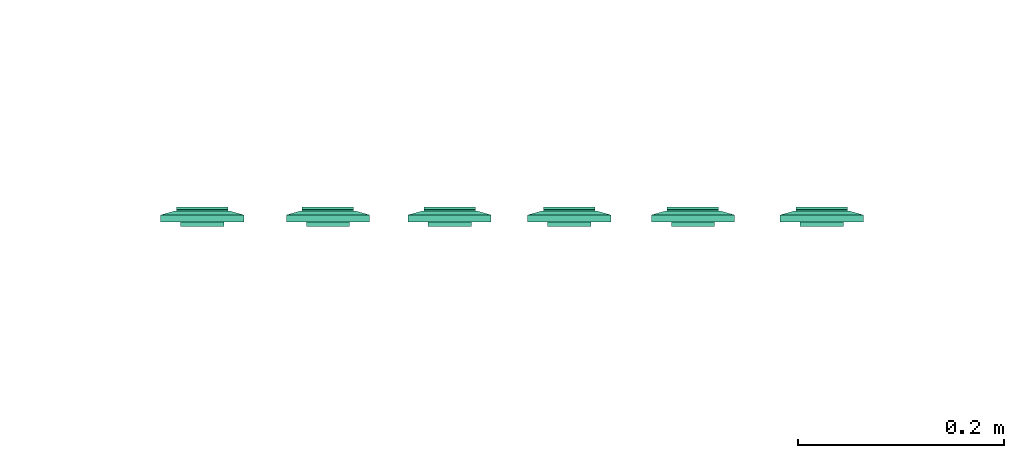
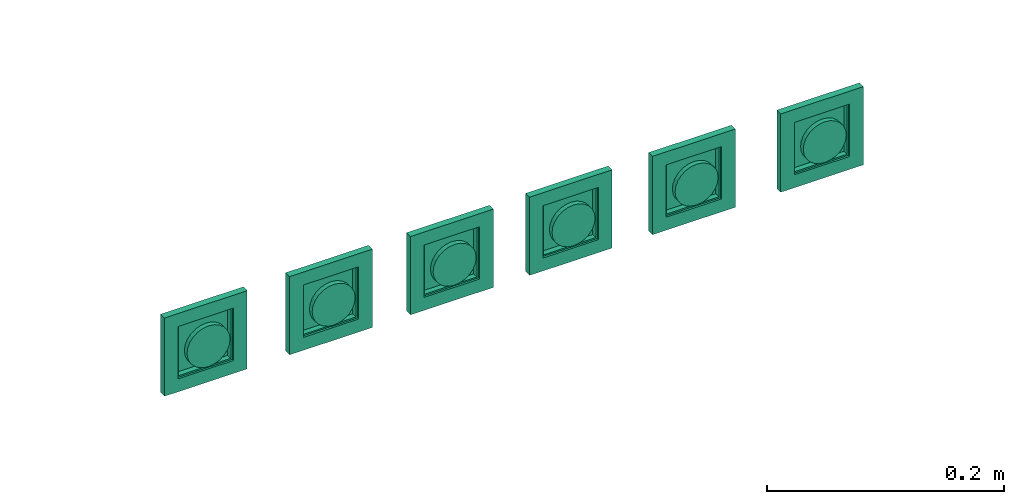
# One storey, part 21 of 146: 6 flow terminals.
"""IFC2X3 building model written with IfcOpenShell, lengths in metres."""

import ifcopenshell
import ifcopenshell.guid

model = None  # the IFC model being written
_history = None  # IfcOwnerHistory: only IFC2X3 demands one
_inside = {}  # id of a spatial element -> (the spatial element, [elements in it])
_under = {}  # id of a project, library or spatial element -> (it, [spatial elements below it])
_declared = {}  # id of a project -> (the project, [libraries it declares])
_typed = {}  # id of a type object -> (the type object, [elements of that type])
_made_of = {}  # id of a material, layer set ... -> (it, [elements and type objects made of it])


def new_model(schema):
    """Start an empty IFC model of exactly this schema.

    Asked for "IFC4X3", IfcOpenShell would pick the latest addendum, in which some entities
    have other attributes; the version numbers below select the first issue.
    IFC2X3 requires an IfcOwnerHistory on every rooted entity: one is made here for all.
    """
    global model, _history
    if schema == "IFC4X3":
        model = ifcopenshell.file(schema_version=(4, 3, 0, 0))
    else:
        model = ifcopenshell.file(schema=schema)
    _inside.clear()
    _under.clear()
    _declared.clear()
    _typed.clear()
    _made_of.clear()
    _history = None
    if model.schema == "IFC2X3":
        org = make("IfcOrganization", Name="unknown")
        user = make(
            "IfcPersonAndOrganization",
            ThePerson=make("IfcPerson", FamilyName="unknown"),
            TheOrganization=org,
        )
        app = make(
            "IfcApplication",
            ApplicationDeveloper=org,
            Version="unknown",
            ApplicationFullName="unknown",
            ApplicationIdentifier="unknown",
        )
        _history = make(
            "IfcOwnerHistory",
            OwningUser=user,
            OwningApplication=app,
            ChangeAction="ADDED",
            CreationDate=0,
        )
    return model


def make(cls, **values):
    """One entity of the class cls with the attributes given. An attribute that is None is left unset."""
    return model.create_entity(
        cls, **{name: value for name, value in values.items() if value is not None}
    )


def entity(cls, *values):
    """Any entity or typed value of the class cls, its attributes in the order of the schema. None: left unset."""
    e = model.create_entity(cls)
    for i, value in enumerate(values):
        if value is not None:
            e[i] = value
    return e


def rooted(cls, **values):
    """An entity with a GlobalId (a new one), such as an element, a storey or a relation."""
    return make(cls, GlobalId=ifcopenshell.guid.new(), OwnerHistory=_history, **values)


def si_unit(unit_type, name, prefix=None):
    """IfcSIUnit, for example si_unit("LENGTHUNIT", "METRE", prefix="MILLI")."""
    return make("IfcSIUnit", UnitType=unit_type, Prefix=prefix, Name=name)


def converted_unit(unit_type, name, factor, base, dimensions=None, offset=None):
    """IfcConversionBasedUnit, such as the inch: factor (a typed value) times the base unit."""
    return make(
        "IfcConversionBasedUnit"
        if offset is None
        else "IfcConversionBasedUnitWithOffset",
        ConversionOffset=offset,
        Dimensions=None
        if dimensions is None
        else entity("IfcDimensionalExponents", *dimensions),
        UnitType=unit_type,
        Name=name,
        ConversionFactor=make(
            "IfcMeasureWithUnit", ValueComponent=factor, UnitComponent=base
        ),
    )


def derived_unit(unit_type, elements):
    """IfcDerivedUnit: a product of units, each with its exponent."""
    return make(
        "IfcDerivedUnit",
        Elements=[
            make("IfcDerivedUnitElement", Unit=unit, Exponent=power)
            for unit, power in elements
        ],
        UnitType=unit_type,
    )


def assignment(units):
    """IfcUnitAssignment: the units of a project."""
    return None if units is None else make("IfcUnitAssignment", Units=units)


def point(xyz):
    """IfcCartesianPoint."""
    return None if xyz is None else make("IfcCartesianPoint", Coordinates=xyz)


def direction(xyz):
    """IfcDirection."""
    return None if xyz is None else make("IfcDirection", DirectionRatios=xyz)


def frame(location, z_axis=None, x_axis=None):
    """IfcAxis2Placement3D, a coordinate frame: its origin and axes. An axis left out is left unset."""
    return make(
        "IfcAxis2Placement3D",
        Location=point(location),
        Axis=direction(z_axis),
        RefDirection=direction(x_axis),
    )


def origin():
    """The frame at (0, 0, 0) with its axes left unset."""
    return frame((0.0, 0.0, 0.0))


def place(relative_to, where):
    """IfcLocalPlacement: puts the frame where relative to a parent placement (None: the world)."""
    return make(
        "IfcLocalPlacement", PlacementRelTo=relative_to, RelativePlacement=where
    )


def context(
    kind, dimensions, precision=None, world=None, true_north=None, identifier=None
):
    """IfcGeometricRepresentationContext, for example the 3D "Model" context."""
    return make(
        "IfcGeometricRepresentationContext",
        ContextIdentifier=identifier,
        ContextType=kind,
        CoordinateSpaceDimension=dimensions,
        Precision=precision,
        WorldCoordinateSystem=world,
        TrueNorth=true_north,
    )


def subcontext(parent, identifier, kind, view, scale=None):
    """IfcGeometricRepresentationSubContext, for example "Body" below "Model"."""
    return make(
        "IfcGeometricRepresentationSubContext",
        ContextIdentifier=identifier,
        ContextType=kind,
        ParentContext=parent,
        TargetScale=scale,
        TargetView=view,
    )


def project(units=None, contexts=None):
    """IfcProject with its units and contexts."""
    return rooted(
        "IfcProject",
        Name="project",
        RepresentationContexts=contexts,
        UnitsInContext=assignment(units),
    )


def spatial(cls, under=None, at=None, **own):
    """A site, building, storey or space (cls), placed at a placement, below another one or the project."""
    s = rooted(cls, ObjectPlacement=at, **own)
    if under is not None:
        _under.setdefault(under.id(), (under, []))[1].append(s)
    return s


def faces_of(points, faces, orient=None, outer=None):
    """IfcFace entities. A face is a list of loops; a loop is a list of indices into points, from 0.

    orient and outer hold one flag for each loop. By default every Orientation is true, the
    first loop of a face is its IfcFaceOuterBound and the others are IfcFaceBound.
    """
    made = []
    for i, loops in enumerate(faces):
        bounds = []
        for j, loop in enumerate(loops):
            is_outer = j == 0 if outer is None else outer[i][j]
            bounds.append(
                make(
                    "IfcFaceOuterBound" if is_outer else "IfcFaceBound",
                    Bound=make("IfcPolyLoop", Polygon=[points[k] for k in loop]),
                    Orientation=True if orient is None else orient[i][j],
                )
            )
        made.append(make("IfcFace", Bounds=bounds))
    return made


def faceted_brep(points, faces, orient=None, outer=None, voids=None):
    """IfcFacetedBrep: a solid bounded by flat faces; with voids (closed shells), ...WithVoids."""
    shared = [point(p) for p in points]
    hull = make("IfcClosedShell", CfsFaces=faces_of(shared, faces, orient, outer))
    if voids is None:
        return make("IfcFacetedBrep", Outer=hull)
    return make(
        "IfcFacetedBrepWithVoids",
        Outer=hull,
        Voids=[
            make(cls, CfsFaces=faces_of(shared, fs, o, b)) for cls, fs, o, b in voids
        ],
    )


def shape(context_of_items, identifier, shape_type, items):
    """IfcShapeRepresentation: the items that make up one representation, for example the "Body"."""
    return make(
        "IfcShapeRepresentation",
        ContextOfItems=context_of_items,
        RepresentationIdentifier=identifier,
        RepresentationType=shape_type,
        Items=items,
    )


def source(mapping_origin, context_of_items, identifier, shape_type, items):
    """IfcRepresentationMap: a shape defined once, which mapped items show again and again."""
    return make(
        "IfcRepresentationMap",
        MappingOrigin=mapping_origin,
        MappedRepresentation=shape(context_of_items, identifier, shape_type, items),
    )


def transform(
    local_origin,
    x_axis=None,
    y_axis=None,
    z_axis=None,
    scale=None,
    scale2=None,
    scale3=None,
    uniform=True,
):
    """IfcCartesianTransformationOperator3D, or its non-uniform kind. x_axis, y_axis, z_axis: its Axis1, 2, 3."""
    if uniform:
        return make(
            "IfcCartesianTransformationOperator3D",
            Axis1=direction(x_axis),
            Axis2=direction(y_axis),
            LocalOrigin=point(local_origin),
            Scale=scale,
            Axis3=direction(z_axis),
        )
    return make(
        "IfcCartesianTransformationOperator3DnonUniform",
        Axis1=direction(x_axis),
        Axis2=direction(y_axis),
        LocalOrigin=point(local_origin),
        Scale=scale,
        Axis3=direction(z_axis),
        Scale2=scale2,
        Scale3=scale3,
    )


def mapped(mapping_source, mapping_target):
    """IfcMappedItem: shows the shape of a source again, moved by a transform."""
    return make(
        "IfcMappedItem", MappingSource=mapping_source, MappingTarget=mapping_target
    )


def made_of(thing, what):
    """Note that an element or type object is made of a material, layer set ...; save() writes the relation."""
    if what is not None:
        _made_of.setdefault(what.id(), (what, []))[1].append(thing)
    return thing


def type_object(cls, material=None, **own):
    """A type object (cls), such as IfcWallType, which elements share."""
    return made_of(rooted(cls, **own), material)


def type_shapes(of_type, sources):
    """Give a type object the sources (RepresentationMaps) that its elements show as mapped items."""
    of_type.RepresentationMaps = sources


def element(
    cls,
    number,
    at=None,
    inside=None,
    cuts=None,
    type_object=None,
    material=None,
    context=None,
    identifier="Body",
    shape_type=None,
    held_by="IfcProductDefinitionShape",
    body=None,
    shapes=None,
    **own,
):
    """One element of the class cls, such as IfcWall. Its Tag is "e" and its number.

    at: its placement. inside: the storey or other place that contains it. cuts: it is an
    opening in that element (IfcRelVoidsElement). A single representation is given by context,
    identifier, shape_type and body (its items); several are given by shapes. held_by: the class
    of the entity that holds the representations. save() writes the other relations.
    """
    e = rooted(cls, Tag="e%d" % number, ObjectPlacement=at, **own)
    if body is not None:
        shapes = [shape(context, identifier, shape_type, body)]
    if shapes is not None:
        e.Representation = make(held_by, Representations=shapes)
    if inside is not None:
        _inside.setdefault(inside.id(), (inside, []))[1].append(e)
    if cuts is not None:
        rooted(
            "IfcRelVoidsElement", RelatingBuildingElement=cuts, RelatedOpeningElement=e
        )
    if type_object is not None:
        _typed.setdefault(type_object.id(), (type_object, []))[1].append(e)
    return made_of(e, material)


def aggregate(whole, parts):
    """IfcRelAggregates: a whole, such as a stair, and the parts it consists of."""
    return rooted("IfcRelAggregates", RelatingObject=whole, RelatedObjects=parts)


def save(model, path):
    """Write the relations noted so far, then the file.

    IfcRelAggregates (storeys below a building ...), IfcRelContainedInSpatialStructure (elements
    in a storey), IfcRelDefinesByType, IfcRelAssociatesMaterial and IfcRelDeclares: one each for
    every whole, place, type object, material and project.
    """
    for whole, parts in _under.values():
        aggregate(whole, parts)
    for where, things in _inside.values():
        rooted(
            "IfcRelContainedInSpatialStructure",
            RelatedElements=things,
            RelatingStructure=where,
        )
    for kind, things in _typed.values():
        rooted("IfcRelDefinesByType", RelatedObjects=things, RelatingType=kind)
    for what, things in _made_of.values():
        rooted("IfcRelAssociatesMaterial", RelatedObjects=things, RelatingMaterial=what)
    for by, libraries in _declared.values():
        rooted("IfcRelDeclares", RelatingContext=by, RelatedDefinitions=libraries)
    model.write(path)


model = new_model("IFC2X3")

# Units and contexts
model_context = context("Model", 3, precision=1e-05, world=origin(), true_north=direction((6.12303176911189e-17, 1.0)))
body_context = subcontext(model_context, "Body", "Model", "MODEL_VIEW")
ifc_project = project(units=[si_unit("LENGTHUNIT", "METRE"), si_unit("AREAUNIT", "SQUARE_METRE"), si_unit("VOLUMEUNIT", "CUBIC_METRE"), converted_unit("PLANEANGLEUNIT", "DEGREE", entity("IfcRatioMeasure", 0.0174532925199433), si_unit("PLANEANGLEUNIT", "RADIAN"), dimensions=[0, 0, 0, 0, 0, 0, 0]), si_unit("MASSUNIT", "GRAM", prefix="KILO"), derived_unit("MASSDENSITYUNIT", [(si_unit("MASSUNIT", "GRAM", prefix="KILO"), 1), (si_unit("LENGTHUNIT", "METRE"), -3)]), si_unit("TIMEUNIT", "SECOND"), si_unit("FREQUENCYUNIT", "HERTZ"), si_unit("THERMODYNAMICTEMPERATUREUNIT", "DEGREE_CELSIUS"), derived_unit("THERMALTRANSMITTANCEUNIT", [(si_unit("MASSUNIT", "GRAM", prefix="KILO"), 1), (si_unit("THERMODYNAMICTEMPERATUREUNIT", "KELVIN"), -1), (si_unit("TIMEUNIT", "SECOND"), -3)]), derived_unit("VOLUMETRICFLOWRATEUNIT", [(si_unit("LENGTHUNIT", "METRE"), 3), (si_unit("TIMEUNIT", "SECOND"), -1)]), si_unit("ELECTRICCURRENTUNIT", "AMPERE"), si_unit("ELECTRICVOLTAGEUNIT", "VOLT"), si_unit("POWERUNIT", "WATT"), si_unit("FORCEUNIT", "NEWTON"), si_unit("ILLUMINANCEUNIT", "LUX"), si_unit("LUMINOUSFLUXUNIT", "LUMEN"), si_unit("LUMINOUSINTENSITYUNIT", "CANDELA"), derived_unit("USERDEFINED", [(si_unit("MASSUNIT", "GRAM", prefix="KILO"), -1), (si_unit("LENGTHUNIT", "METRE"), -2), (si_unit("TIMEUNIT", "SECOND"), 3), (si_unit("LUMINOUSFLUXUNIT", "LUMEN"), 1)]), derived_unit("LINEARVELOCITYUNIT", [(si_unit("LENGTHUNIT", "METRE"), 1), (si_unit("TIMEUNIT", "SECOND"), -1)]), si_unit("PRESSUREUNIT", "PASCAL"), derived_unit("USERDEFINED", [(si_unit("LENGTHUNIT", "METRE"), -2), (si_unit("MASSUNIT", "GRAM", prefix="KILO"), 1), (si_unit("TIMEUNIT", "SECOND"), -2)])], contexts=[model_context])

# Site, building, storey
site_placement = place(None, origin())
site = spatial("IfcSite", under=ifc_project, at=site_placement, Name="Default", CompositionType="ELEMENT")
building_placement = place(site_placement, origin())
building = spatial("IfcBuilding", under=site, at=building_placement, CompositionType="ELEMENT")
storey_placement = place(building_placement, origin())
storey = spatial("IfcBuildingStorey", under=building, at=storey_placement, Name="S01", CompositionType="ELEMENT", Elevation=0.0)

# Flow terminals
light_fixture_type = type_object("IfcLightFixtureType", Name="BP IP21", PredefinedType="NOTDEFINED")
shared_shape = source(origin(), body_context, "Body", "Brep", [
    faceted_brep([(0.0, 0.0209999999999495, -0.00460000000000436), (0.00543519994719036, 0.02028444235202, -0.00460000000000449), (0.0105000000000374, 0.0181865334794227, -0.00460000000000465), (0.0148492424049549, 0.014849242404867, -0.00460000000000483), (0.0181865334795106, 0.0104999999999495, -0.00460000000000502), (0.0202844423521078, 0.00543519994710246, -0.00460000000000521), (0.0210000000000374, 0.0, -0.00460000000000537), (0.0202844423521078, -0.00543519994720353, -0.00460000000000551), (0.0181865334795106, -0.0105000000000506, -0.0046000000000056), (0.0148492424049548, -0.0148492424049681, -0.00460000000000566), (0.0105000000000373, -0.0181865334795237, -0.00460000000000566), (0.00543519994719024, -0.0202844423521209, -0.00460000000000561), (0.0, -0.0210000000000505, -0.00460000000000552), (-0.00543519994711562, -0.0202844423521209, -0.00460000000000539), (-0.0104999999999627, -0.0181865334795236, -0.00460000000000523), (-0.0148492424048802, -0.0148492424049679, -0.00460000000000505), (-0.0181865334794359, -0.0105000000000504, -0.00460000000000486), (-0.0202844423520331, -0.00543519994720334, -0.00460000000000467), (-0.0209999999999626, 0.0, -0.00460000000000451), (-0.020284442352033, 0.00543519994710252, -0.00460000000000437), (-0.0181865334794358, 0.0104999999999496, -0.00460000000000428), (-0.0148492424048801, 0.0148492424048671, -0.00460000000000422), (-0.0104999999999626, 0.0181865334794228, -0.00460000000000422), (-0.00543519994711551, 0.02028444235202, -0.00460000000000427), (-0.020284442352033, -0.00543519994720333, 0.0), (-0.0209999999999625, 0.0, 0.0), (-0.0181865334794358, -0.0105000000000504, 0.0), (-0.0104999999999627, -0.0181865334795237, 0.0), (-0.0148492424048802, -0.0148492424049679, 0.0), (-0.00543519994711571, -0.020284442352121, 0.0), (0.0, -0.0210000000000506, 0.0), (0.00543519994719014, -0.0202844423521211, 0.0), (0.0105000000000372, -0.018186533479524, 0.0), (0.0181865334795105, -0.0105000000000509, 0.0), (0.0148492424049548, -0.0148492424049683, 0.0), (0.0202844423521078, -0.00543519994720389, 0.0), (0.0210000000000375, 0.0, 0.0), (0.0202844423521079, 0.00543519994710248, 0.0), (0.0181865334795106, 0.0104999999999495, 0.0), (0.0105000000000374, 0.0181865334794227, 0.0), (0.0148492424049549, 0.014849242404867, 0.0), (0.00543519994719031, 0.0202844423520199, 0.0), (0.0, 0.0209999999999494, 0.0), (-0.00543519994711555, 0.0202844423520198, 0.0), (-0.0104999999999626, 0.0181865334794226, 0.0), (-0.0181865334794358, 0.0104999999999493, 0.0), (-0.0148492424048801, 0.0148492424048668, 0.0), (-0.020284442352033, 0.00543519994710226, 0.0)], [[[0, 1, 2, 3, 4, 5, 6, 7, 8, 9, 10, 11, 12, 13, 14, 15, 16, 17, 18, 19, 20, 21, 22, 23]], [[17, 24, 25, 18]], [[16, 26, 24, 17]], [[27, 28, 15, 14]], [[16, 15, 28, 26]], [[29, 27, 14, 13]], [[30, 29, 13, 12]], [[11, 31, 30, 12]], [[10, 32, 31, 11]], [[33, 34, 9, 8]], [[10, 9, 34, 32]], [[35, 33, 8, 7]], [[36, 35, 7, 6]], [[5, 37, 36, 6]], [[4, 38, 37, 5]], [[39, 40, 3, 2]], [[4, 3, 40, 38]], [[41, 39, 2, 1]], [[42, 41, 1, 0]], [[23, 43, 42, 0]], [[22, 44, 43, 23]], [[45, 46, 21, 20]], [[22, 21, 46, 44]], [[47, 45, 20, 19]], [[25, 47, 19, 18]], [[25, 24, 26, 28, 27, 29, 30, 31, 32, 34, 33, 35, 36, 37, 38, 40, 39, 41, 42, 43, 44, 46, 45, 47]]]),
    faceted_brep([(0.0270000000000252, 0.026999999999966, 0.0103999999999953), (-0.0269999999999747, 0.026999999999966, 0.0103999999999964), (-0.0269999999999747, -0.0270000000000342, 0.0103999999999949), (0.0270000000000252, -0.0270000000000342, 0.0103999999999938), (-0.0254999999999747, 0.0258096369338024, 0.0103999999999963), (0.0255000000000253, 0.0258096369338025, 0.0103999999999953), (0.0255000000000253, -0.0255000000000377, 0.0103999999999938), (-0.0254999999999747, -0.0255000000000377, 0.0103999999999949), (0.0270000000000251, 0.0269999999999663, 0.00199999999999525), (0.0270000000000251, -0.0270000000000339, 0.00199999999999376), (-0.0269999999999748, -0.0270000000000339, 0.00199999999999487), (-0.0269999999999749, 0.0269999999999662, 0.00199999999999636), (0.0255000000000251, 0.0258096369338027, 0.00199999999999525), (-0.0254999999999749, 0.0258096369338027, 0.0019999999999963), (-0.0254999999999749, -0.0255000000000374, 0.00199999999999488), (0.0255000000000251, -0.0255000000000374, 0.00199999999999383)], [[[0, 1, 2, 3], [4, 5, 6, 7]], [[8, 9, 10, 11], [12, 13, 14, 15]], [[1, 0, 8, 11]], [[2, 1, 11, 10]], [[3, 2, 10, 9]], [[0, 3, 9, 8]], [[12, 5, 4, 13]], [[13, 4, 7, 14]], [[14, 7, 6, 15]], [[5, 12, 15, 6]]]),
    faceted_brep([(0.0250000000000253, 0.0253096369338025, 0.00659999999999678), (0.0250000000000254, 0.0253096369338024, 0.0117095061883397), (0.0250000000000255, -0.0245000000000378, 0.0142232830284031), (0.0250000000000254, -0.0250000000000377, 0.0117095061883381), (0.0250000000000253, -0.0250000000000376, 0.00659999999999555), (-0.0249999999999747, 0.0253096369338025, 0.00659999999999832), (-0.0249999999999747, -0.0250000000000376, 0.00659999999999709), (-0.0249999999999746, -0.0250000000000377, 0.0117095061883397), (-0.0249999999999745, -0.0245000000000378, 0.0142232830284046), (-0.0249999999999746, 0.0253096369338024, 0.0117095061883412)], [[[0, 1, 2, 3, 4]], [[5, 6, 7, 8, 9]], [[1, 0, 5, 9]], [[2, 1, 9, 8]], [[3, 2, 8, 7]], [[4, 3, 7, 6]], [[0, 4, 6, 5]]]),
    faceted_brep([(0.027000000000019, 0.0269999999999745, 0.00659999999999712), (-0.0269999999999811, 0.0269999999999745, 0.00659999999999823), (-0.026999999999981, -0.0270000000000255, 0.00659999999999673), (0.027000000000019, -0.0270000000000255, 0.00659999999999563), (0.040350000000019, 0.0403499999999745, 0.00659999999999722), (0.040350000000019, -0.0403500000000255, 0.00659999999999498), (-0.0403499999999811, -0.0403500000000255, 0.00659999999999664), (-0.0403499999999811, 0.0403499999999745, 0.00659999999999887), (-0.026999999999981, 0.0269999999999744, 0.0103999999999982), (0.027000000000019, 0.0269999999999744, 0.0103999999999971), (-0.026999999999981, -0.0270000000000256, 0.0103999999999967), (0.027000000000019, -0.0270000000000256, 0.0103999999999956)], [[[0, 1, 2, 3], [4, 5, 6, 7]], [[4, 7, 8, 9]], [[7, 6, 10, 8]], [[6, 5, 11, 10]], [[5, 4, 9, 11]], [[0, 9, 8, 1]], [[1, 8, 10, 2]], [[2, 10, 11, 3]], [[9, 0, 3, 11]]], outer=[[False, True], [True], [True], [True], [True], [True], [True], [True], [True]]),
    faceted_brep([(0.040350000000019, 0.0403499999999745, 0.00659999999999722), (-0.0403499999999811, 0.0403499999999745, 0.00659999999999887), (-0.0403499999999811, -0.0403500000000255, 0.00659999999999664), (0.040350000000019, -0.0403500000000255, 0.00659999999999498), (-0.0269999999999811, 0.0269999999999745, 0.00659999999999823), (0.0270000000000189, 0.0269999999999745, 0.00659999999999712), (0.0270000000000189, -0.0270000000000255, 0.00659999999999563), (-0.0269999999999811, -0.0270000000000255, 0.00659999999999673), (0.0403500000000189, 0.0403499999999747, 0.0), (0.0403500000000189, -0.0403500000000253, 0.0), (-0.0403499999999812, -0.0403500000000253, 0.0), (-0.0403499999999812, 0.0403499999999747, 0.0), (0.0270000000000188, 0.0269999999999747, 0.0), (-0.0269999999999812, 0.0269999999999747, 0.0), (-0.0269999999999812, -0.0270000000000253, 0.0), (0.0270000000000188, -0.0270000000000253, 0.0)], [[[0, 1, 2, 3], [4, 5, 6, 7]], [[8, 9, 10, 11], [12, 13, 14, 15]], [[1, 0, 8, 11]], [[2, 1, 11, 10]], [[3, 2, 10, 9]], [[0, 3, 9, 8]], [[12, 5, 4, 13]], [[13, 4, 7, 14]], [[14, 7, 6, 15]], [[5, 12, 15, 6]]]),
])
type_shapes(light_fixture_type, [shared_shape])
for number, where, z_axis, x_axis in (
    (1, (25.4797188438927, -187.708069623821, 1.05000000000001), (0.0, 1.0, 0.0), (-1.0, 0.0, 0.0)),
    (2, (25.6017188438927, -187.708069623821, 1.05000000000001), (0.0, 1.0, 0.0), (-1.0, 0.0, 0.0)),
    (3, (25.7197188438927, -187.708069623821, 1.05000000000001), (0.0, 1.0, 0.0), (-1.0, 0.0, 0.0)),
    (4, (25.8357188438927, -187.708069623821, 1.05000000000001), (0.0, 1.0, 0.0), (-1.0, 0.0, 0.0)),
    (5, (25.9557188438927, -187.708069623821, 1.05000000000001), (0.0, 1.0, 0.0), (-1.0, 0.0, 0.0)),
    (6, (26.0807188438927, -187.708069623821, 1.05000000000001), (0.0, 1.0, 0.0), (-1.0, 0.0, 0.0)),
):
    element("IfcFlowTerminal", number, at=place(building_placement, frame(where, z_axis=z_axis, x_axis=x_axis)), inside=storey, type_object=light_fixture_type, Name="INT_Cmd BA:BP IP21", ObjectType="INT_Cmd BA:BP IP21", context=body_context, shape_type="MappedRepresentation", body=[
        mapped(shared_shape, transform((0.0, 0.0, 0.0), scale=1.0)),
    ])

save(model, "model.ifc")
